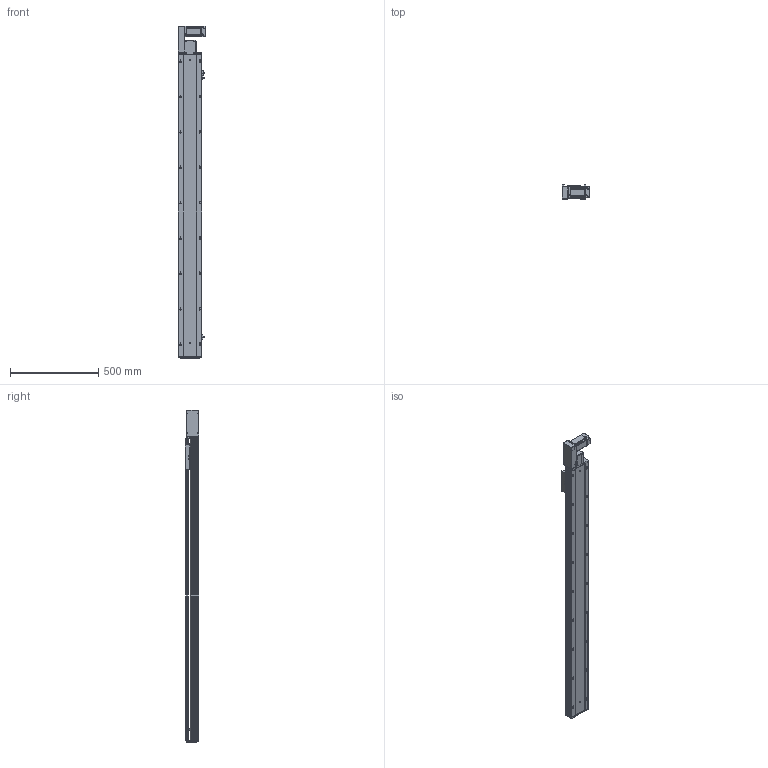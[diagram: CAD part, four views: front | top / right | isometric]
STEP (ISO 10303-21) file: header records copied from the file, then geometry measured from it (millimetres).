
FILE_DESCRIPTION (( 'STEP AP203' ), '1' );
FILE_NAME ('RY140-T-300-LK.SLDASM_1450.step', '2021-03-01T06:36:13', ( '盈信电脑' ), ( '东莞市道滘镇水果街19号' ), 'SwSTEP 2.0', 'SolidWorks 2012', '' );
FILE_SCHEMA (( 'CONFIG_CONTROL_DESIGN' ));
Length unit declared in the file: millimetre
Products named in the file (18): RY140-T-300-LK.SLDASM_1450; RY140-T翋肮謫裔啣; RY120-T主同步轮轴承压盖; RY120-T蹟翐M4; RY140-T萇儂欶; 滅袉蝶18-10; RY140-T翋肮祭謫盓傅釱; 侂狟400W侜督萇儂; 15; RY140-T萇儂假蚾啣; RY120-T肮祭湍揤踡輸2; RY120外置感应片(140共用）; RY120-T肮祭湍揤踡輸1; 覜茼ん672; RY140-T-300-DL倰第奻裔啣_1450; RY140肮祭謫臏賑輸; RY140綴裔啣; RY140-T-300-DL倰第菁釱_1450
Assembly tree (23 placements, depth 3):
  RY140-T-300-LK.SLDASM_1450
    RY140-T-300-DL倰第菁釱_1450
    RY140肮祭謫臏賑輸
    RY140-T-300-DL倰第奻裔啣_1450
    RY140綴裔啣
    覜茼ん672  x3
    RY120外置感应片(140共用）
    RY120-T肮祭湍揤踡輸2
    RY120-T肮祭湍揤踡輸1
    RY140-T翋肮祭謫盓傅釱
    RY140-T萇儂假蚾啣
    侂狟400W侜督萇儂
      15
    RY120-T主同步轮轴承压盖
    RY120-T蹟翐M4  x4
    RY140-T萇儂欶
    滅袉蝶18-10  x2
    RY140-T翋肮謫裔啣
Bounding box: 157 x 78 x 1876.5 mm (x, y, z)
Volume: 5073668 mm3; surface area: 1963708.3 mm2
Topology: 22 solids, 22 shells, 2759 faces, 7557 edges, 4828 vertices
Faces by surface type: plane 1381, cylinder 1028, cone 250, bspline 100
Entity records: 87165 total; most frequent: CARTESIAN_POINT 21195, ORIENTED_EDGE 13538, DIRECTION 12921, EDGE_CURVE 6769, VERTEX_POINT 4427, AXIS2_PLACEMENT_3D 4312, LINE 4297, VECTOR 4297
